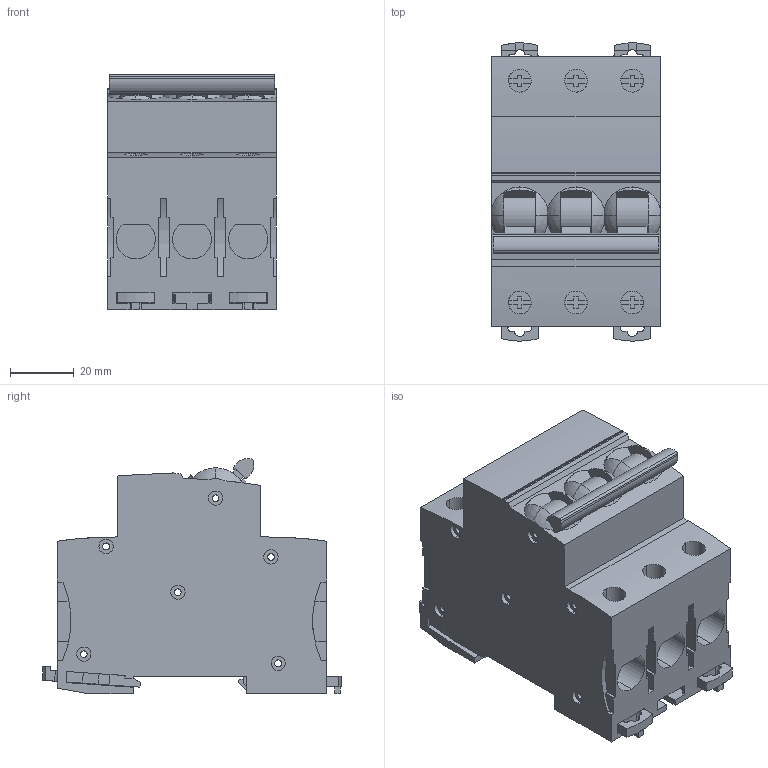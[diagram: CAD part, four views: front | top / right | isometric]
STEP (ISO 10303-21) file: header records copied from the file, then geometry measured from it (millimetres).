
FILE_DESCRIPTION(('STEP AP214'),'1');
FILE_NAME(' ',' ',('TraceParts'),('TraceParts S.A.'),'XStep 1.0',' ',' ');
FILE_SCHEMA(('automotive_design'));
Length unit declared in the file: millimetre
Products named in the file (12): SB100444_S_ASM|Next assembly relationship;COQUE_PRINCIPALE_3P; SB100444_S_ASM|Next assembly relationship;CLIP_2; SB100444_S_ASM|Next assembly relationship;CLIP_1; SB100444_S_ASM|Next assembly relationship;VIS_7_2; SB100444_S_ASM|Next assembly relationship;MANETTE_3
Bounding box: 53.1 x 93.9 x 74.02 mm (x, y, z)
Volume: 239738.1 mm3; surface area: 47491.7 mm2
Topology: 12 solids, 12 shells, 791 faces, 2227 edges, 1480 vertices
Faces by surface type: plane 596, cylinder 183, sphere 12
Entity records: 26071 total; most frequent: CARTESIAN_POINT 5004, ORIENTED_EDGE 4454, DIRECTION 4223, EDGE_CURVE 2227, LINE 1737, VECTOR 1737, VERTEX_POINT 1480, AXIS2_PLACEMENT_3D 1243
